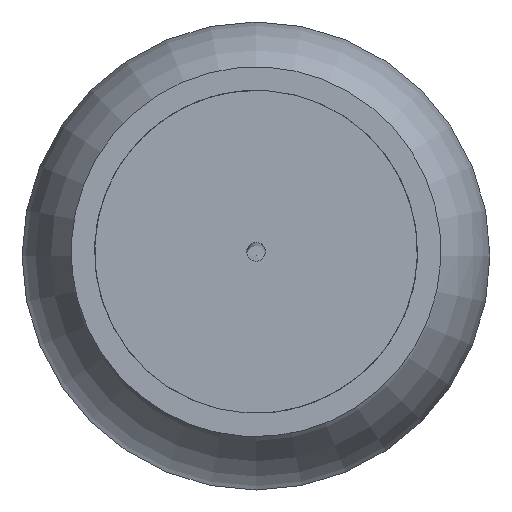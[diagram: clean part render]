
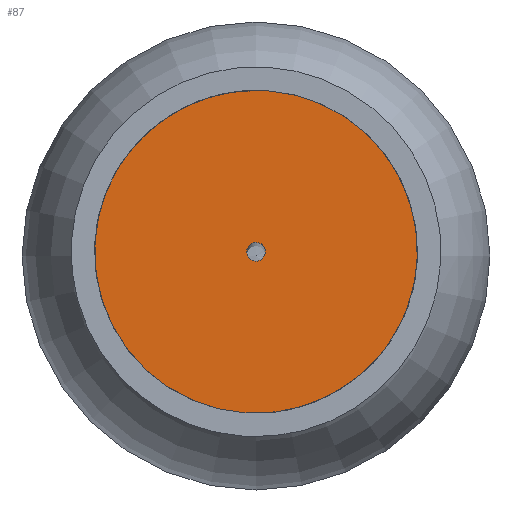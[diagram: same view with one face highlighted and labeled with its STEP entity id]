
A CAD part, top view. The second image highlights one B-rep face of the part: STEP entity #87.
In plain terms, the highlighted free-form (B-spline) face has degree [1, 1] with [2, 2] control points.
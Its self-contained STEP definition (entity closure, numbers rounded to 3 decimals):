
#87=ADVANCED_FACE('0:92',(#104,#105),#106,.F.);
#104=FACE_OUTER_BOUND('',#272,.T.);
#105=FACE_BOUND('',#273,.T.);
#106=B_SPLINE_SURFACE_WITH_KNOTS('',1,1,((#274,#275),(#276,#277)),.UNSPECIFIED.,.F.,.F.,.F.,(2,2),(2,2),(0.0,1.0),(0.0,1.0),.UNSPECIFIED.);
#272=EDGE_LOOP('',(#4811));
#273=EDGE_LOOP('',(#4812));
#274=CARTESIAN_POINT('',(60.638,273.209,1004.506));
#275=CARTESIAN_POINT('',(-79.018,273.209,1004.506));
#276=CARTESIAN_POINT('',(60.638,133.553,1004.506));
#277=CARTESIAN_POINT('',(-79.018,133.553,1004.506));
#4811=ORIENTED_EDGE('',*,*,#4855,.F.);
#4812=ORIENTED_EDGE('',*,*,#4856,.F.);
#4855=EDGE_CURVE('0:98',#4884,#4884,#4885,.T.);
#4856=EDGE_CURVE('0:104',#4886,#4886,#4887,.T.);
#4884=VERTEX_POINT('',#4940);
#4885=CIRCLE('',#4941,69.0);
#4886=VERTEX_POINT('',#4942);
#4887=CIRCLE('',#4943,4.0);
#4940=CARTESIAN_POINT('',(-13.48,134.515,1004.506));
#4941=AXIS2_PLACEMENT_3D('',#5579,#5580,#5581);
#4942=CARTESIAN_POINT('',(-9.439,199.389,1004.506));
#4943=AXIS2_PLACEMENT_3D('',#5582,#5583,#5584);
#5579=CARTESIAN_POINT('',(-9.19,203.381,1004.506));
#5580=DIRECTION('',(0.,0.,-1.0));
#5581=DIRECTION('',(-0.062,-0.998,0.));
#5582=CARTESIAN_POINT('',(-9.19,203.381,1004.506));
#5583=DIRECTION('',(0.,0.,1.0));
#5584=DIRECTION('',(-0.062,-0.998,0.));
